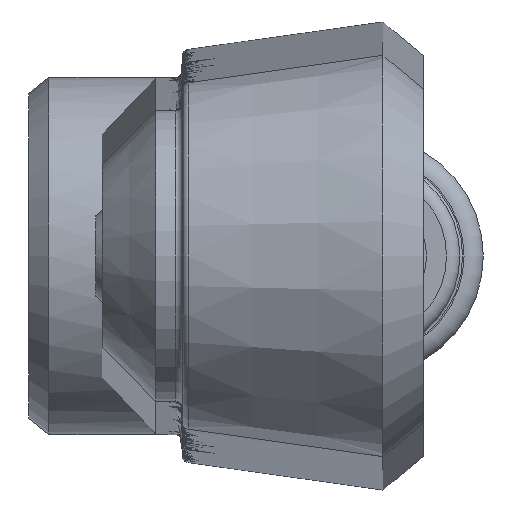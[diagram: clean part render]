
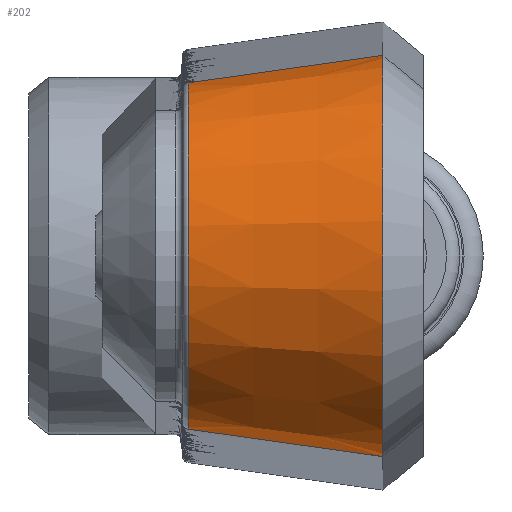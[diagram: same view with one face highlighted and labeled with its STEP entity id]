
A CAD part, front view. The second image highlights one B-rep face of the part: STEP entity #202.
In plain terms, the highlighted conical face has half-angle 8 degrees and reference radius 15 mm.
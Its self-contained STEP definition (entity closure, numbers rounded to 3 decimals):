
#202 = ADVANCED_FACE( '', ( #337 ), #338, .T. );
#337 = FACE_OUTER_BOUND( '', #604, .T. );
#338 = CONICAL_SURFACE( '', #605, 15., 0.14 );
#604 = EDGE_LOOP( '', ( #1034, #1035, #1036, #1037 ) );
#605 = AXIS2_PLACEMENT_3D( '', #1038, #1039, #1040 );
#1034 = ORIENTED_EDGE( '', *, *, #1558, .F. );
#1035 = ORIENTED_EDGE( '', *, *, #1520, .F. );
#1036 = ORIENTED_EDGE( '', *, *, #1557, .T. );
#1037 = ORIENTED_EDGE( '', *, *, #1535, .T. );
#1038 = CARTESIAN_POINT( '', ( 15.396, -100., 0. ) );
#1039 = DIRECTION( '', ( 1., 0., 0. ) );
#1040 = DIRECTION( '', ( 0., 0., -1. ) );
#1520 = EDGE_CURVE( '', #1804, #1806, #1807, .T. );
#1535 = EDGE_CURVE( '', #1835, #1833, #1836, .T. );
#1557 = EDGE_CURVE( '', #1804, #1835, #1870, .T. );
#1558 = EDGE_CURVE( '', #1806, #1833, #1871, .T. );
#1804 = VERTEX_POINT( '', #2336 );
#1806 = VERTEX_POINT( '', #2339 );
#1807 = B_SPLINE_CURVE_WITH_KNOTS( '', 3, ( #2340, #2341, #2342, #2343 ), .UNSPECIFIED., .F., .F., ( 4, 4 ), ( 0., 0.782 ), .UNSPECIFIED. );
#1833 = VERTEX_POINT( '', #2423 );
#1835 = VERTEX_POINT( '', #2428 );
#1836 = B_SPLINE_CURVE_WITH_KNOTS( '', 3, ( #2429, #2430, #2431, #2432 ), .UNSPECIFIED., .F., .F., ( 4, 4 ), ( 0., 1. ), .UNSPECIFIED. );
#1870 = CIRCLE( '', #2492, 15. );
#1871 = CIRCLE( '', #2493, 12.953 );
#2336 = CARTESIAN_POINT( '', ( 15.396, -100., -15. ) );
#2339 = CARTESIAN_POINT( '', ( 0.83, -100., -12.953 ) );
#2340 = CARTESIAN_POINT( '', ( 15.396, -100., -15. ) );
#2341 = CARTESIAN_POINT( '', ( 10.541, -100., -14.318 ) );
#2342 = CARTESIAN_POINT( '', ( 5.685, -100., -13.635 ) );
#2343 = CARTESIAN_POINT( '', ( 0.83, -100., -12.953 ) );
#2423 = CARTESIAN_POINT( '', ( 0.83, -100., 12.953 ) );
#2428 = CARTESIAN_POINT( '', ( 15.396, -100., 15. ) );
#2429 = CARTESIAN_POINT( '', ( 15.396, -100., 15. ) );
#2430 = CARTESIAN_POINT( '', ( 10.541, -100., 14.318 ) );
#2431 = CARTESIAN_POINT( '', ( 5.685, -100., 13.635 ) );
#2432 = CARTESIAN_POINT( '', ( 0.83, -100., 12.953 ) );
#2492 = AXIS2_PLACEMENT_3D( '', #2799, #2800, #2801 );
#2493 = AXIS2_PLACEMENT_3D( '', #2802, #2803, #2804 );
#2799 = CARTESIAN_POINT( '', ( 15.396, -100., 0. ) );
#2800 = DIRECTION( '', ( -1., 0., 0. ) );
#2801 = DIRECTION( '', ( 0., 0., 1. ) );
#2802 = CARTESIAN_POINT( '', ( 0.83, -100., 0. ) );
#2803 = DIRECTION( '', ( -1., 0., 0. ) );
#2804 = DIRECTION( '', ( 0., 0., 1. ) );
